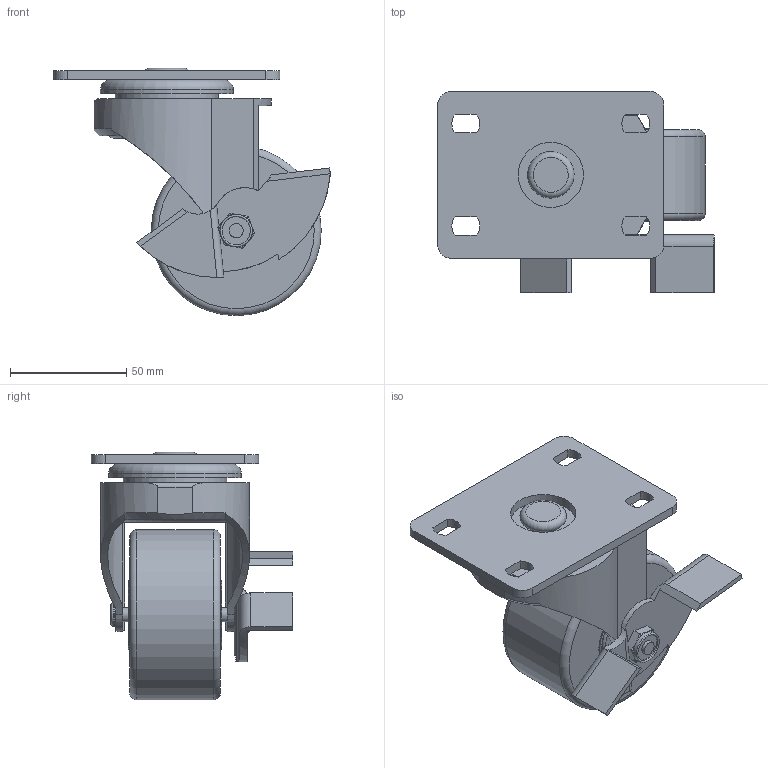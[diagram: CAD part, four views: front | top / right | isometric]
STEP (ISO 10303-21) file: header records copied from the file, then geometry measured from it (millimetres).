
FILE_DESCRIPTION(/* description */ (''),/* implementation_level */ '2;1');
FILE_NAME(/* name */ 'C:\Users\Owner\Documents\硯聰\Inv材料庫-3D新型錄-2019整理\07.共用配件\GW-輪子\GW-3PB.stp',/* time_stamp */ '2019-03-15T13:37:53+08:00',/* author */ ('Owner'),/* organization */ (''),/* preprocessor_version */ 'ST-DEVELOPER v16.1',/* originating_system */ 'Autodesk Inventor 2016',/* authorisation */ '');
FILE_SCHEMA (('AUTOMOTIVE_DESIGN { 1 0 10303 214 3 1 1 }'));
Length unit declared in the file: millimetre
Products named in the file (10): 零件9; 零件2; 零件3; 零件4; 零件5; 零件6; 零件7; 零件8; 剎車片25JPB_預設; GW-3PB
Assembly tree (9 placements, depth 2):
  GW-3PB
    零件9
    零件2
    零件3
    零件4
    零件5
    零件6
    零件7
    零件8
    剎車片25JPB_預設
Bounding box: 118.73 x 86.4 x 106.23 mm (x, y, z)
Volume: 258564.3 mm3; surface area: 81334.3 mm2
Topology: 9 solids, 9 shells, 179 faces, 434 edges, 271 vertices
Faces by surface type: plane 75, cylinder 73, torus 16, bspline 14, cone 1
Full cylindrical faces by diameter (mm): 2 x1, 5 x1, 6 x5, 10 x2, 12.15 x1, 13.856 x1, 22.614 x1, 26 x2, 28 x3, 30 x1, 31 x1, 33 x1, 35 x1, 37.174 x1, 44.35 x1, 52.359 x1, 53 x1, 57 x1, 73 x1
Entity records: 5739 total; most frequent: CARTESIAN_POINT 1511, DIRECTION 868, ORIENTED_EDGE 742, EDGE_CURVE 371, AXIS2_PLACEMENT_3D 357, VERTEX_POINT 263, EDGE_LOOP 254, FACE_OUTER_BOUND 179
